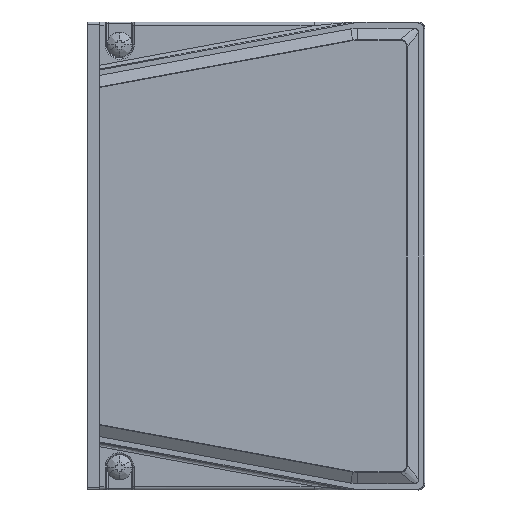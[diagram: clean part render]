
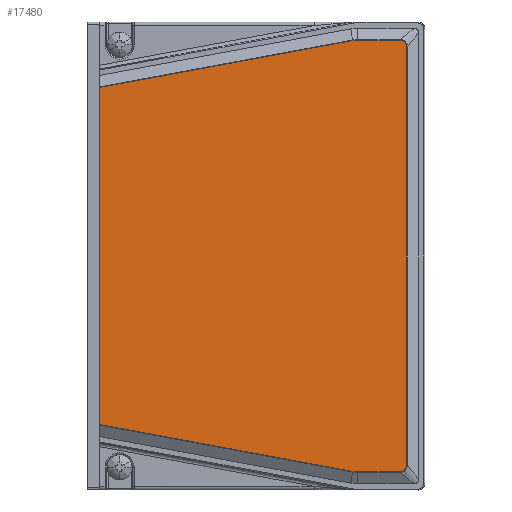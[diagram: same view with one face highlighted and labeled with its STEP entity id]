
A CAD part, left-side view. The second image highlights one B-rep face of the part: STEP entity #17480.
In plain terms, the highlighted planar face has unit normal (-1, 0, 0).
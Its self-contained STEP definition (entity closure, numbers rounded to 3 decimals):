
#17480=ADVANCED_FACE('',(#21095),#108354,.T.);
#21095=FACE_OUTER_BOUND('',#24856,.T.);
#24856=EDGE_LOOP('',(#45066,#45067,#45068,#45069,#45070,#45071,#45072,#45073,
#45074,#45075,#45076,#45077,#45078,#45079));
#45066=ORIENTED_EDGE('',*,*,#65732,.F.);
#45067=ORIENTED_EDGE('',*,*,#65733,.F.);
#45068=ORIENTED_EDGE('',*,*,#65734,.F.);
#45069=ORIENTED_EDGE('',*,*,#65740,.F.);
#45070=ORIENTED_EDGE('',*,*,#65743,.F.);
#45071=ORIENTED_EDGE('',*,*,#65735,.F.);
#45072=ORIENTED_EDGE('',*,*,#65736,.F.);
#45073=ORIENTED_EDGE('',*,*,#65741,.F.);
#45074=ORIENTED_EDGE('',*,*,#65744,.F.);
#45075=ORIENTED_EDGE('',*,*,#65737,.F.);
#45076=ORIENTED_EDGE('',*,*,#65738,.F.);
#45077=ORIENTED_EDGE('',*,*,#65739,.F.);
#45078=ORIENTED_EDGE('',*,*,#65742,.F.);
#45079=ORIENTED_EDGE('',*,*,#65731,.T.);
#65731=EDGE_CURVE('',#104936,#104935,#84307,.T.);
#65732=EDGE_CURVE('',#104937,#104935,#84308,.T.);
#65733=EDGE_CURVE('',#104938,#104937,#84309,.T.);
#65734=EDGE_CURVE('',#104939,#104938,#84310,.T.);
#65735=EDGE_CURVE('',#104940,#104945,#84311,.T.);
#65736=EDGE_CURVE('',#104941,#104940,#84312,.T.);
#65737=EDGE_CURVE('',#104942,#104947,#84313,.T.);
#65738=EDGE_CURVE('',#104943,#104942,#84314,.T.);
#65739=EDGE_CURVE('',#104944,#104943,#84315,.T.);
#65740=EDGE_CURVE('',#104946,#104939,#84316,.T.);
#65741=EDGE_CURVE('',#104948,#104941,#84317,.T.);
#65742=EDGE_CURVE('',#104936,#104944,#84318,.T.);
#65743=EDGE_CURVE('',#104945,#104946,#84319,.T.);
#65744=EDGE_CURVE('',#104947,#104948,#84320,.T.);
#84307=B_SPLINE_CURVE_WITH_KNOTS('',1,(#200069,#200070),.UNSPECIFIED.,.F.,
 .F.,(2,2),(-75.602,0.),.UNSPECIFIED.);
#84308=B_SPLINE_CURVE_WITH_KNOTS('',1,(#200071,#200072),.UNSPECIFIED.,.F.,
 .F.,(2,2),(0.,57.796),.UNSPECIFIED.);
#84309=B_SPLINE_CURVE_WITH_KNOTS('',5,(#200073,#200074,#200075,#200076,
#200077,#200078),.UNSPECIFIED.,.F.,.F.,(6,6),(-1.564,0.),
 .UNSPECIFIED.);
#84310=B_SPLINE_CURVE_WITH_KNOTS('',1,(#200079,#200080),.UNSPECIFIED.,.F.,
 .F.,(2,2),(0.,9.539),.UNSPECIFIED.);
#84311=B_SPLINE_CURVE_WITH_KNOTS('',5,(#200081,#200082,#200083,#200084,
#200085,#200086,#200087,#200088,#200089,#200090,#200091,#200092),
 .UNSPECIFIED.,.F.,.F.,(6,3,3,6),(-3.277,-2.663,-1.908,
-1.863),.UNSPECIFIED.);
#84312=B_SPLINE_CURVE_WITH_KNOTS('',1,(#200093,#200094),.UNSPECIFIED.,.F.,
 .F.,(2,2),(0.,93.935),.UNSPECIFIED.);
#84313=B_SPLINE_CURVE_WITH_KNOTS('',5,(#200095,#200096,#200097,#200098,
#200099,#200100,#200101,#200102,#200103,#200104,#200105,#200106),
 .UNSPECIFIED.,.F.,.F.,(6,3,3,6),(-3.277,-2.663,-1.908,
-1.863),.UNSPECIFIED.);
#84314=B_SPLINE_CURVE_WITH_KNOTS('',1,(#200107,#200108),.UNSPECIFIED.,.F.,
 .F.,(2,2),(0.,9.539),.UNSPECIFIED.);
#84315=B_SPLINE_CURVE_WITH_KNOTS('',5,(#200109,#200110,#200111,#200112,
#200113,#200114),.UNSPECIFIED.,.F.,.F.,(6,6),(-1.564,0.),
 .UNSPECIFIED.);
#84316=B_SPLINE_CURVE_WITH_KNOTS('',5,(#200115,#200116,#200117,#200118,
#200119,#200120,#200121,#200122,#200123),.UNSPECIFIED.,.F.,.F.,(6,3,6),
(-1.502,-0.78,0.),
 .UNSPECIFIED.);
#84317=B_SPLINE_CURVE_WITH_KNOTS('',5,(#200124,#200125,#200126,#200127,
#200128,#200129,#200130,#200131,#200132),.UNSPECIFIED.,.F.,.F.,(6,3,6),
(-1.502,-0.78,0.),.UNSPECIFIED.);
#84318=B_SPLINE_CURVE_WITH_KNOTS('',1,(#200133,#200134),.UNSPECIFIED.,.F.,
 .F.,(2,2),(-57.796,0.),.UNSPECIFIED.);
#84319=B_SPLINE_CURVE_WITH_KNOTS('',3,(#200135,#200136,#200137,#200138),
 .UNSPECIFIED.,.F.,.F.,(4,4),(1.122,1.41),
 .UNSPECIFIED.);
#84320=B_SPLINE_CURVE_WITH_KNOTS('',3,(#200139,#200140,#200141,#200142),
 .UNSPECIFIED.,.F.,.F.,(4,4),(1.121,1.411),
 .UNSPECIFIED.);
#104935=VERTEX_POINT('',#200055);
#104936=VERTEX_POINT('',#200056);
#104937=VERTEX_POINT('',#200057);
#104938=VERTEX_POINT('',#200058);
#104939=VERTEX_POINT('',#200059);
#104940=VERTEX_POINT('',#200060);
#104941=VERTEX_POINT('',#200061);
#104942=VERTEX_POINT('',#200062);
#104943=VERTEX_POINT('',#200063);
#104944=VERTEX_POINT('',#200064);
#104945=VERTEX_POINT('',#200065);
#104946=VERTEX_POINT('',#200066);
#104947=VERTEX_POINT('',#200067);
#104948=VERTEX_POINT('',#200068);
#108354=PLANE('',#111268);
#111268=AXIS2_PLACEMENT_3D('',#200054,#114165,$);
#114165=DIRECTION('',(-1.,0.,0.));
#200054=CARTESIAN_POINT('',(452.208,-69.334,227.596));
#200055=CARTESIAN_POINT('',(452.208,-76.287,131.614));
#200056=CARTESIAN_POINT('',(452.208,-76.287,207.215));
#200057=CARTESIAN_POINT('',(452.208,-133.115,121.081));
#200058=CARTESIAN_POINT('',(452.208,-134.215,120.98));
#200059=CARTESIAN_POINT('',(452.208,-143.755,120.98));
#200060=CARTESIAN_POINT('',(452.208,-145.222,122.447));
#200061=CARTESIAN_POINT('',(452.208,-145.222,216.382));
#200062=CARTESIAN_POINT('',(452.208,-143.755,217.849));
#200063=CARTESIAN_POINT('',(452.208,-134.215,217.849));
#200064=CARTESIAN_POINT('',(452.208,-133.115,217.748));
#200065=CARTESIAN_POINT('',(452.208,-144.902,121.548));
#200066=CARTESIAN_POINT('',(452.208,-144.706,121.343));
#200067=CARTESIAN_POINT('',(452.208,-144.653,217.529));
#200068=CARTESIAN_POINT('',(452.208,-144.859,217.333));
#200069=CARTESIAN_POINT('',(452.208,-76.287,207.215));
#200070=CARTESIAN_POINT('',(452.208,-76.287,131.614));
#200071=CARTESIAN_POINT('',(452.208,-133.115,121.081));
#200072=CARTESIAN_POINT('',(452.208,-76.287,131.614));
#200073=CARTESIAN_POINT('',(452.208,-134.215,120.98));
#200074=CARTESIAN_POINT('',(452.208,-133.994,120.98));
#200075=CARTESIAN_POINT('',(452.208,-133.773,120.99));
#200076=CARTESIAN_POINT('',(452.208,-133.552,121.011));
#200077=CARTESIAN_POINT('',(452.208,-133.333,121.041));
#200078=CARTESIAN_POINT('',(452.208,-133.115,121.081));
#200079=CARTESIAN_POINT('',(452.208,-143.755,120.98));
#200080=CARTESIAN_POINT('',(452.208,-134.215,120.98));
#200081=CARTESIAN_POINT('',(452.208,-145.222,122.447));
#200082=CARTESIAN_POINT('',(452.208,-145.221,122.379));
#200083=CARTESIAN_POINT('',(452.208,-145.217,122.31));
#200084=CARTESIAN_POINT('',(452.208,-145.208,122.237));
#200085=CARTESIAN_POINT('',(452.208,-145.174,122.061));
#200086=CARTESIAN_POINT('',(452.208,-145.105,121.874));
#200087=CARTESIAN_POINT('',(452.208,-145.055,121.77));
#200088=CARTESIAN_POINT('',(452.208,-144.991,121.664));
#200089=CARTESIAN_POINT('',(452.208,-144.915,121.565));
#200090=CARTESIAN_POINT('',(452.208,-144.91,121.559));
#200091=CARTESIAN_POINT('',(452.208,-144.906,121.554));
#200092=CARTESIAN_POINT('',(452.208,-144.902,121.548));
#200093=CARTESIAN_POINT('',(452.208,-145.222,216.382));
#200094=CARTESIAN_POINT('',(452.208,-145.222,122.447));
#200095=CARTESIAN_POINT('',(452.208,-143.755,217.849));
#200096=CARTESIAN_POINT('',(452.208,-143.823,217.849));
#200097=CARTESIAN_POINT('',(452.208,-143.891,217.844));
#200098=CARTESIAN_POINT('',(452.208,-143.965,217.836));
#200099=CARTESIAN_POINT('',(452.208,-144.14,217.802));
#200100=CARTESIAN_POINT('',(452.208,-144.328,217.733));
#200101=CARTESIAN_POINT('',(452.208,-144.432,217.683));
#200102=CARTESIAN_POINT('',(452.208,-144.538,217.618));
#200103=CARTESIAN_POINT('',(452.208,-144.637,217.542));
#200104=CARTESIAN_POINT('',(452.208,-144.642,217.538));
#200105=CARTESIAN_POINT('',(452.208,-144.648,217.534));
#200106=CARTESIAN_POINT('',(452.208,-144.653,217.529));
#200107=CARTESIAN_POINT('',(452.208,-134.215,217.849));
#200108=CARTESIAN_POINT('',(452.208,-143.755,217.849));
#200109=CARTESIAN_POINT('',(452.208,-133.115,217.748));
#200110=CARTESIAN_POINT('',(452.208,-133.333,217.788));
#200111=CARTESIAN_POINT('',(452.208,-133.552,217.819));
#200112=CARTESIAN_POINT('',(452.208,-133.773,217.839));
#200113=CARTESIAN_POINT('',(452.208,-133.994,217.849));
#200114=CARTESIAN_POINT('',(452.208,-134.215,217.849));
#200115=CARTESIAN_POINT('',(452.208,-144.706,121.343));
#200116=CARTESIAN_POINT('',(452.208,-144.62,121.269));
#200117=CARTESIAN_POINT('',(452.208,-144.528,121.203));
#200118=CARTESIAN_POINT('',(452.208,-144.431,121.147));
#200119=CARTESIAN_POINT('',(452.208,-144.226,121.052));
#200120=CARTESIAN_POINT('',(452.208,-144.026,121.002));
#200121=CARTESIAN_POINT('',(452.208,-143.929,120.987));
#200122=CARTESIAN_POINT('',(452.208,-143.841,120.98));
#200123=CARTESIAN_POINT('',(452.208,-143.755,120.98));
#200124=CARTESIAN_POINT('',(452.208,-144.859,217.333));
#200125=CARTESIAN_POINT('',(452.208,-144.933,217.248));
#200126=CARTESIAN_POINT('',(452.208,-144.999,217.155));
#200127=CARTESIAN_POINT('',(452.208,-145.055,217.059));
#200128=CARTESIAN_POINT('',(452.208,-145.15,216.853));
#200129=CARTESIAN_POINT('',(452.208,-145.2,216.653));
#200130=CARTESIAN_POINT('',(452.208,-145.214,216.556));
#200131=CARTESIAN_POINT('',(452.208,-145.221,216.468));
#200132=CARTESIAN_POINT('',(452.208,-145.222,216.382));
#200133=CARTESIAN_POINT('',(452.208,-76.287,207.215));
#200134=CARTESIAN_POINT('',(452.208,-133.115,217.748));
#200135=CARTESIAN_POINT('',(452.208,-144.902,121.548));
#200136=CARTESIAN_POINT('',(452.208,-144.843,121.474));
#200137=CARTESIAN_POINT('',(452.208,-144.777,121.405));
#200138=CARTESIAN_POINT('',(452.208,-144.706,121.343));
#200139=CARTESIAN_POINT('',(452.208,-144.653,217.529));
#200140=CARTESIAN_POINT('',(452.208,-144.728,217.471));
#200141=CARTESIAN_POINT('',(452.208,-144.797,217.405));
#200142=CARTESIAN_POINT('',(452.208,-144.859,217.333));
